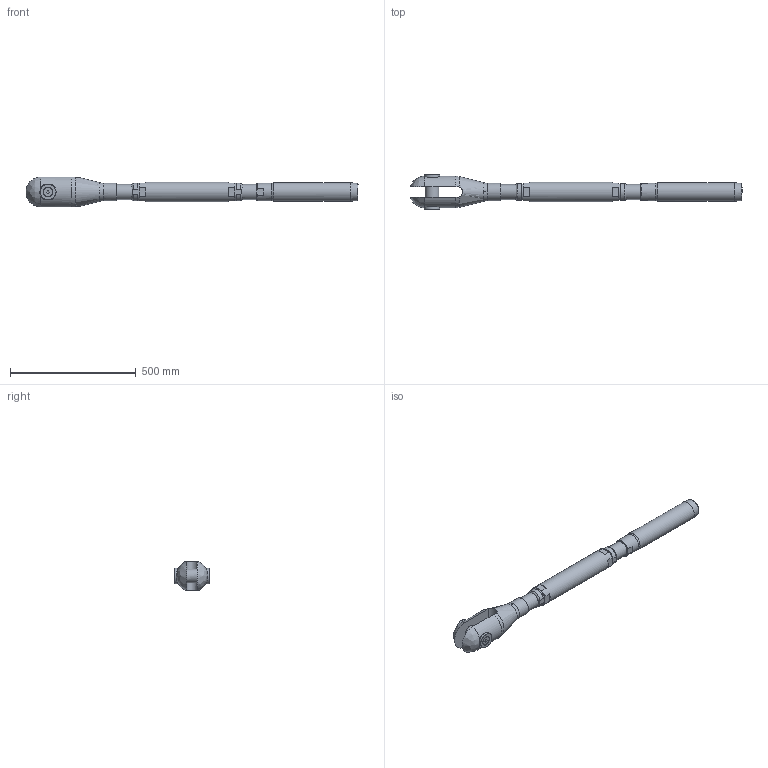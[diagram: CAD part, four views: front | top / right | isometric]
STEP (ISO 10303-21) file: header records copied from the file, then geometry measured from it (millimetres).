
FILE_DESCRIPTION(/* description */ (''),/* implementation_level */ '2;1');
FILE_NAME(/* name */ 'TBC 40_42CrMo4',/* time_stamp */ '2023-05-23T18:16:53+02:00',/* author */ (''),/* organization */ (''),/* preprocessor_version */ 'ST-DEVELOPER v16.5',/* originating_system */ 'Rhino 7.22',/* authorisation */ '');
FILE_SCHEMA (('CONFIG_CONTROL_DESIGN'));
Length unit declared in the file: millimetre
Products named in the file (1): Document
Bounding box: 1319.33 x 137.87 x 118.79 mm (x, y, z)
Volume: 6085886.4 mm3; surface area: 595887 mm2
Topology: 10 solids, 10 shells, 143 faces, 390 edges, 269 vertices
Faces by surface type: plane 65, bspline 43, cylinder 35
Full cylindrical faces by diameter (mm): 17.294 x2, 20 x2, 21 x2, 35.4 x2, 55 x1, 56 x2, 56.752 x4, 60 x2, 63 x2, 64 x1, 70 x2, 73.5 x1, 79 x1
Entity records: 6112 total; most frequent: CARTESIAN_POINT 3646, ORIENTED_EDGE 772, EDGE_CURVE 386, VERTEX_POINT 269, EDGE_LOOP 163, B_SPLINE_CURVE_WITH_KNOTS 160, ADVANCED_FACE 143, FACE_OUTER_BOUND 143
